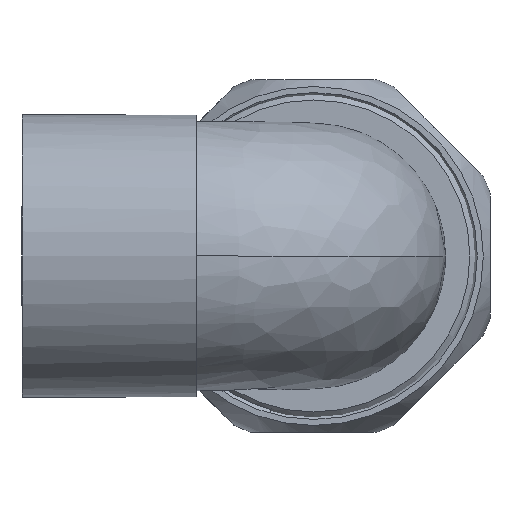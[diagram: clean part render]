
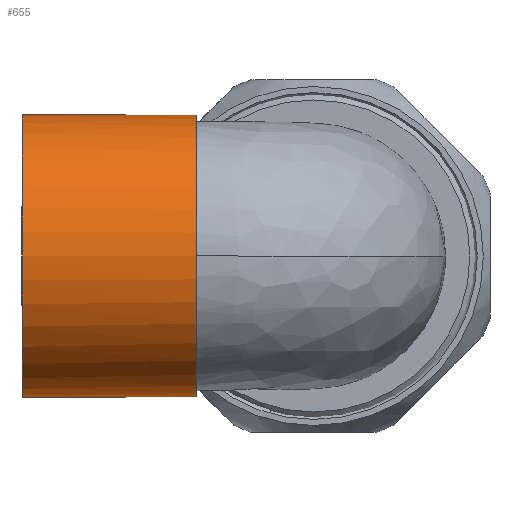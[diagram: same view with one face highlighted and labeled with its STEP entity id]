
A CAD part, left-side view. The second image highlights one B-rep face of the part: STEP entity #655.
In plain terms, the highlighted cylindrical face has radius 30 mm (diameter 60 mm), a full revolution.
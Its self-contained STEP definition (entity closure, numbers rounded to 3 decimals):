
#538=CARTESIAN_POINT('',(0.,62.0,0.0));
#539=DIRECTION('',(0.0,1.0,0.0));
#540=DIRECTION('',(-1.0,0.0,0.0));
#541=AXIS2_PLACEMENT_3D('',#538,#539,#540);
#542=CYLINDRICAL_SURFACE('',#541,30.);
#543=CARTESIAN_POINT('',(16.827,25.0,-24.837));
#544=VERTEX_POINT('',#543);
#545=CARTESIAN_POINT('',(16.827,25.,24.837));
#546=VERTEX_POINT('',#545);
#547=CARTESIAN_POINT('',(0.,25.,0.0));
#548=DIRECTION('',(0.0,1.0,0.0));
#549=DIRECTION('',(-1.0,0.0,0.0));
#550=AXIS2_PLACEMENT_3D('',#547,#548,#549);
#551=CIRCLE('',#550,30.);
#552=EDGE_CURVE('',#544,#546,#551,.T.);
#553=ORIENTED_EDGE('',*,*,#552,.T.);
#554=CARTESIAN_POINT('',(30.,28.268,0.0));
#555=VERTEX_POINT('',#554);
#556=CARTESIAN_POINT('',(30.,28.268,0.));
#557=CARTESIAN_POINT('',(30.,28.268,1.876));
#558=CARTESIAN_POINT('',(29.826,28.133,3.72));
#559=CARTESIAN_POINT('',(29.484,27.903,5.538));
#560=CARTESIAN_POINT('',(29.407,27.851,5.948));
#561=CARTESIAN_POINT('',(29.322,27.794,6.356));
#562=CARTESIAN_POINT('',(29.228,27.733,6.764));
#563=CARTESIAN_POINT('',(29.133,27.672,7.174));
#564=CARTESIAN_POINT('',(29.031,27.607,7.575));
#565=CARTESIAN_POINT('',(28.925,27.543,7.96));
#566=CARTESIAN_POINT('',(28.625,27.362,9.049));
#567=CARTESIAN_POINT('',(28.291,27.177,10.022));
#568=CARTESIAN_POINT('',(27.962,27.027,10.868));
#569=CARTESIAN_POINT('',(27.758,26.934,11.394));
#570=CARTESIAN_POINT('',(27.556,26.855,11.87));
#571=CARTESIAN_POINT('',(27.365,26.797,12.294));
#572=CARTESIAN_POINT('',(27.168,26.738,12.732));
#573=CARTESIAN_POINT('',(26.988,26.704,13.105));
#574=CARTESIAN_POINT('',(26.838,26.704,13.406));
#575=CARTESIAN_POINT('',(26.763,26.703,13.556));
#576=CARTESIAN_POINT('',(26.697,26.71,13.685));
#577=CARTESIAN_POINT('',(26.632,26.73,13.811));
#578=CARTESIAN_POINT('',(26.597,26.741,13.878));
#579=CARTESIAN_POINT('',(26.563,26.756,13.944));
#580=CARTESIAN_POINT('',(26.531,26.776,14.003));
#581=CARTESIAN_POINT('',(26.514,26.788,14.036));
#582=CARTESIAN_POINT('',(26.499,26.799,14.064));
#583=CARTESIAN_POINT('',(26.485,26.813,14.09));
#584=CARTESIAN_POINT('',(26.477,26.82,14.106));
#585=CARTESIAN_POINT('',(26.469,26.829,14.121));
#586=CARTESIAN_POINT('',(26.46,26.84,14.138));
#587=CARTESIAN_POINT('',(26.446,26.857,14.163));
#588=CARTESIAN_POINT('',(26.43,26.876,14.193));
#589=CARTESIAN_POINT('',(26.408,26.902,14.234));
#590=CARTESIAN_POINT('',(26.387,26.927,14.273));
#591=CARTESIAN_POINT('',(26.363,26.954,14.317));
#592=CARTESIAN_POINT('',(26.341,26.98,14.358));
#593=CARTESIAN_POINT('',(26.083,27.27,14.832));
#594=CARTESIAN_POINT('',(25.802,27.502,15.316));
#595=CARTESIAN_POINT('',(25.498,27.679,15.806));
#596=CARTESIAN_POINT('',(25.19,27.86,16.304));
#597=CARTESIAN_POINT('',(24.858,27.984,16.807));
#598=CARTESIAN_POINT('',(24.499,28.057,17.315));
#599=CARTESIAN_POINT('',(23.848,28.19,18.236));
#600=CARTESIAN_POINT('',(23.09,28.157,19.197));
#601=CARTESIAN_POINT('',(22.224,27.94,20.152));
#602=CARTESIAN_POINT('',(21.787,27.831,20.634));
#603=CARTESIAN_POINT('',(21.318,27.672,21.118));
#604=CARTESIAN_POINT('',(20.844,27.475,21.576));
#605=CARTESIAN_POINT('',(20.108,27.168,22.287));
#606=CARTESIAN_POINT('',(19.354,26.767,22.942));
#607=CARTESIAN_POINT('',(18.606,26.29,23.533));
#608=CARTESIAN_POINT('',(18.529,26.241,23.594));
#609=CARTESIAN_POINT('',(18.452,26.191,23.654));
#610=CARTESIAN_POINT('',(18.375,26.141,23.714));
#611=CARTESIAN_POINT('',(17.854,25.797,24.118));
#612=CARTESIAN_POINT('',(17.335,25.415,24.492));
#613=CARTESIAN_POINT('',(16.827,25.,24.837));
#614=B_SPLINE_CURVE_WITH_KNOTS('',3,(#556,#557,#558,#559,#560,#561,#562,#563,#564,#565,#566,#567,#568,#569,#570,#571,#572,#573,#574,#575,#576,#577,#578,#579,#580,#581,#582,#583,#584,#585,#586,#587,#588,#589,#590,#591,#592,#593,#594,#595,#596,#597,#598,#599,#600,#601,#602,#603,#604,#605,#606,#607,#608,#609,#610,#611,#612,#613),.UNSPECIFIED.,.F.,.U.,(4,3,3,3,3,3,3,3,3,3,3,3,3,3,3,3,3,3,3,4),(-2.986,-2.59,-2.501,-2.411,-2.157,-1.999,-1.835,-1.753,-1.709,-1.685,-1.671,-1.651,-1.631,-1.411,-1.186,-0.779,-0.574,-0.255,-0.222,0.),.UNSPECIFIED.);
#615=EDGE_CURVE('',#555,#546,#614,.T.);
#616=ORIENTED_EDGE('',*,*,#615,.F.);
#617=CARTESIAN_POINT('',(16.827,25.,-24.837));
#618=CARTESIAN_POINT('',(17.491,25.543,-24.386));
#619=CARTESIAN_POINT('',(18.173,26.028,-23.885));
#620=CARTESIAN_POINT('',(19.619,26.914,-22.717));
#621=CARTESIAN_POINT('',(20.387,27.303,-22.033));
#622=CARTESIAN_POINT('',(22.382,28.073,-20.053));
#623=CARTESIAN_POINT('',(23.455,28.227,-18.765));
#624=CARTESIAN_POINT('',(25.073,27.969,-16.52));
#625=CARTESIAN_POINT('',(25.709,27.647,-15.502));
#626=CARTESIAN_POINT('',(26.322,27.003,-14.393));
#627=CARTESIAN_POINT('',(26.391,26.925,-14.267));
#628=CARTESIAN_POINT('',(26.469,26.829,-14.121));
#629=CARTESIAN_POINT('',(26.497,26.795,-14.069));
#630=CARTESIAN_POINT('',(26.626,26.722,-13.823));
#631=CARTESIAN_POINT('',(26.716,26.707,-13.649));
#632=CARTESIAN_POINT('',(27.146,26.691,-12.794));
#633=CARTESIAN_POINT('',(27.654,26.872,-11.721));
#634=CARTESIAN_POINT('',(28.674,27.374,-8.944));
#635=CARTESIAN_POINT('',(29.153,27.678,-7.322));
#636=CARTESIAN_POINT('',(29.831,28.137,-3.674));
#637=CARTESIAN_POINT('',(30.,28.268,-1.849));
#638=CARTESIAN_POINT('',(30.,28.268,0.));
#639=B_SPLINE_CURVE_WITH_KNOTS('',3,(#617,#618,#619,#620,#621,#622,#623,#624,#625,#626,#627,#628,#629,#630,#631,#632,#633,#634,#635,#636,#637,#638),.UNSPECIFIED.,.F.,.U.,(4,2,2,2,2,2,2,2,2,2,4),(-19.088,-16.102,-12.765,-7.146,-2.518,-1.915,-1.816,-1.679,-1.122,-0.555,0.),.UNSPECIFIED.);
#640=EDGE_CURVE('',#544,#555,#639,.T.);
#641=ORIENTED_EDGE('',*,*,#640,.F.);
#642=EDGE_LOOP('',(#553,#616,#641));
#643=FACE_OUTER_BOUND('',#642,.T.);
#644=CARTESIAN_POINT('',(-30.0,62.,0.0));
#645=VERTEX_POINT('',#644);
#646=CARTESIAN_POINT('',(0.,62.,0.0));
#647=DIRECTION('',(0.0,1.0,0.0));
#648=DIRECTION('',(-1.0,0.0,0.0));
#649=AXIS2_PLACEMENT_3D('',#646,#647,#648);
#650=CIRCLE('',#649,30.);
#651=EDGE_CURVE('',#645,#645,#650,.T.);
#652=ORIENTED_EDGE('',*,*,#651,.F.);
#653=EDGE_LOOP('',(#652));
#654=FACE_BOUND('',#653,.T.);
#655=ADVANCED_FACE('',(#643,#654),#542,.T.);
